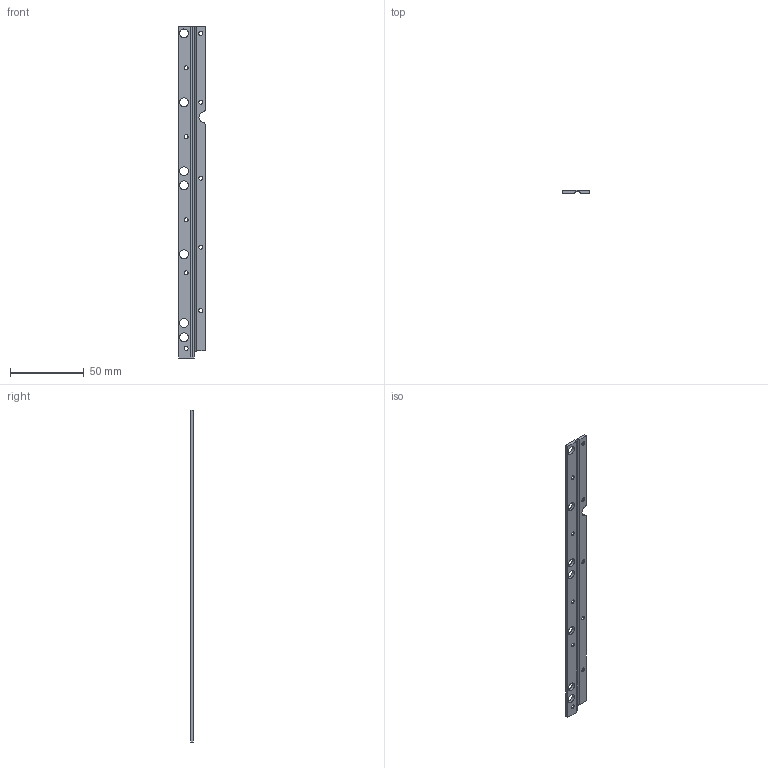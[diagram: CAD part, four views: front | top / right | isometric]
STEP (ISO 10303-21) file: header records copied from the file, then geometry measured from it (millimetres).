
FILE_DESCRIPTION(/* description */ (''),/* implementation_level */ '2;1');
FILE_NAME(/* name */ 'LAMINA#3specular.stp',/* time_stamp */ '2023-10-12T11:01:07+02:00',/* author */ (''),/* organization */ (''),/* preprocessor_version */ 'ST-DEVELOPER v19.4',/* originating_system */ 'SIEMENS PLM Software NX2306.5001',/* authorisation */ '');
FILE_SCHEMA (('AUTOMOTIVE_DESIGN { 1 0 10303 214 3 1 1 1 }'));
Length unit declared in the file: millimetre
Products named in the file (1): LAMINA#3specular_objects
Bounding box: 18 x 2 x 225.5 mm (x, y, z)
Volume: 6406.4 mm3; surface area: 9201 mm2
Topology: 1 solids, 1 shells, 46 faces, 157 edges, 108 vertices
Faces by surface type: cylinder 23, plane 13, cone 10
Full cylindrical faces by diameter (mm): 2.7 x10, 6 x7
Entity records: 1801 total; most frequent: CARTESIAN_POINT 353, DIRECTION 293, ORIENTED_EDGE 292, EDGE_CURVE 146, AXIS2_PLACEMENT_3D 115, VERTEX_POINT 103, EDGE_LOOP 81, CIRCLE 68
